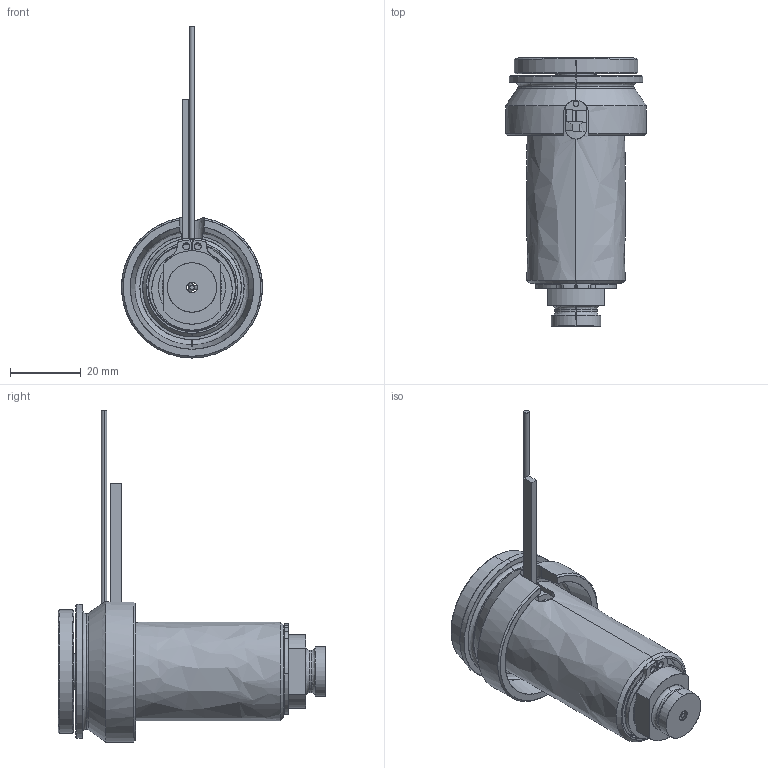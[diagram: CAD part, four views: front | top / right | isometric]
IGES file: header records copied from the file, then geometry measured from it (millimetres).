
Start section: SolidWorks IGES file using analytic representation for surfaces
Global section: file name: C:\Documents and Settings\ws-20\Desktop\TEM\UGEP4101-S-A-1 [Øf-1.31 P-0 ØC-10].IGS; native system: SolidWorks 2012; preprocessor: SolidWorks 2012; author: ws-20; date: 120426.085719; units: millimetre
Bounding box: 40 x 76 x 94.15 mm (x, y, z)
Surface area: 24750.6 mm2 (no closed solid volume)
Topology: 0 solids, 0 shells, 118 faces, 2058 edges, 2058 vertices
Faces by surface type: revolution 72, bspline 46
